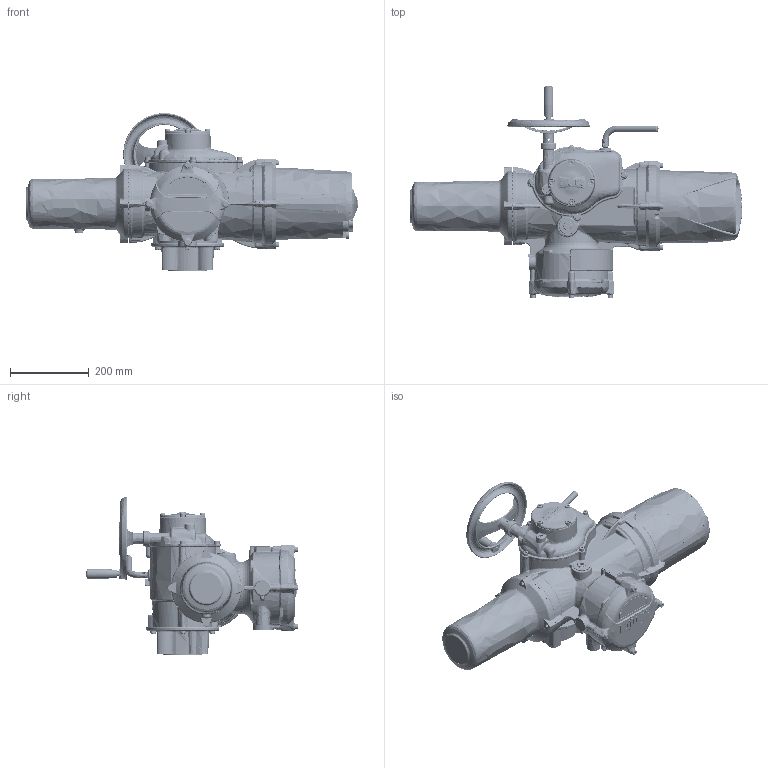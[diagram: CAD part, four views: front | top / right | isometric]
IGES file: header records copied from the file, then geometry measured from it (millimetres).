
Start section: C
Global section: file name: IQ3H-2SP-SHW-AZ3-1.igs; native system: By Siemens PLM Incorporated; preprocessor: XPlus GENERIC/IGES 23.0.57; author: Author; organization: Title; date: 20210329.103514; units: millimetre
Bounding box: 843.5 x 537.85 x 400.8 mm (x, y, z)
Surface area: 1277592.4 mm2 (no closed solid volume)
Topology: 0 solids, 0 shells, 6448 faces, 35247 edges, 34934 vertices
Faces by surface type: bspline 6448
